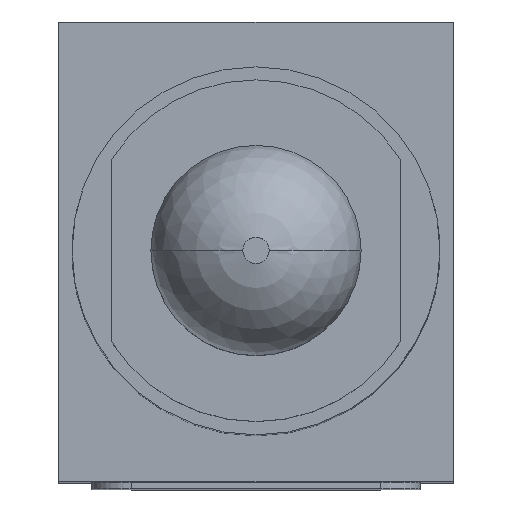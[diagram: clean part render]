
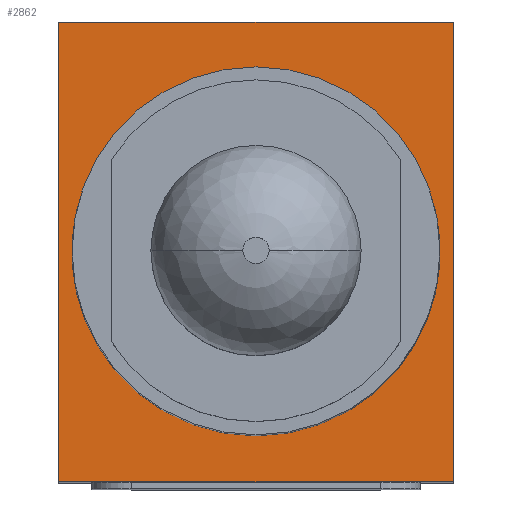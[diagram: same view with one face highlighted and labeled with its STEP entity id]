
A CAD part, top view. The second image highlights one B-rep face of the part: STEP entity #2862.
In plain terms, the highlighted planar face has unit normal (0, 0, 1).
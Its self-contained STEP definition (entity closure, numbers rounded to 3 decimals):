
#241=DIRECTION('',(0.,-1.,0.));
#242=VECTOR('',#241,35.);
#243=CARTESIAN_POINT('',(-15.,17.5,33.5));
#244=LINE('',#243,#242);
#248=DIRECTION('',(-1.,0.,0.));
#249=VECTOR('',#248,30.);
#250=CARTESIAN_POINT('',(15.,17.5,33.5));
#251=LINE('',#250,#249);
#255=DIRECTION('',(0.,1.,0.));
#256=VECTOR('',#255,35.);
#257=CARTESIAN_POINT('',(15.,-17.5,33.5));
#258=LINE('',#257,#256);
#262=DIRECTION('',(1.,0.,0.));
#263=VECTOR('',#262,30.);
#264=CARTESIAN_POINT('',(-15.,-17.5,33.5));
#265=LINE('',#264,#263);
#269=CARTESIAN_POINT('',(0.,0.,33.5));
#270=DIRECTION('',(0.,0.,1.));
#271=DIRECTION('',(0.,1.,0.));
#272=AXIS2_PLACEMENT_3D('',#269,#270,#271);
#277=CARTESIAN_POINT('',(0.,0.,33.5));
#278=DIRECTION('',(0.,0.,1.));
#279=DIRECTION('',(0.,-1.,0.));
#280=AXIS2_PLACEMENT_3D('',#277,#278,#279);
#2330=CARTESIAN_POINT('',(-15.,17.5,33.5));
#2331=CARTESIAN_POINT('',(-15.,-17.5,33.5));
#2332=VERTEX_POINT('',#2330);
#2333=VERTEX_POINT('',#2331);
#2334=CARTESIAN_POINT('',(15.,-17.5,33.5));
#2335=VERTEX_POINT('',#2334);
#2336=CARTESIAN_POINT('',(15.,17.5,33.5));
#2337=VERTEX_POINT('',#2336);
#2422=CARTESIAN_POINT('',(0.,14.,33.5));
#2423=CARTESIAN_POINT('',(0.,-14.,33.5));
#2424=VERTEX_POINT('',#2422);
#2425=VERTEX_POINT('',#2423);
#2842=CARTESIAN_POINT('',(0.,0.,33.5));
#2843=DIRECTION('',(0.,0.,1.));
#2844=DIRECTION('',(1.,0.,0.));
#2845=AXIS2_PLACEMENT_3D('',#2842,#2843,#2844);
#2846=PLANE('',#2845);
#2848=ORIENTED_EDGE('',*,*,#2847,.F.);
#2850=ORIENTED_EDGE('',*,*,#2849,.F.);
#2852=ORIENTED_EDGE('',*,*,#2851,.F.);
#2854=ORIENTED_EDGE('',*,*,#2853,.F.);
#2855=EDGE_LOOP('',(#2848,#2850,#2852,#2854));
#2856=FACE_OUTER_BOUND('',#2855,.F.);
#2858=ORIENTED_EDGE('',*,*,#2857,.T.);
#2859=ORIENTED_EDGE('',*,*,#2822,.T.);
#2860=EDGE_LOOP('',(#2858,#2859));
#2861=FACE_BOUND('',#2860,.F.);
#273=CIRCLE('',#272,14.);
#281=CIRCLE('',#280,14.);
#2822=EDGE_CURVE('',#2425,#2424,#281,.T.);
#2847=EDGE_CURVE('',#2332,#2333,#244,.T.);
#2849=EDGE_CURVE('',#2337,#2332,#251,.T.);
#2851=EDGE_CURVE('',#2335,#2337,#258,.T.);
#2853=EDGE_CURVE('',#2333,#2335,#265,.T.);
#2857=EDGE_CURVE('',#2424,#2425,#273,.T.);
#2862=ADVANCED_FACE('',(#2856,#2861),#2846,.T.);
